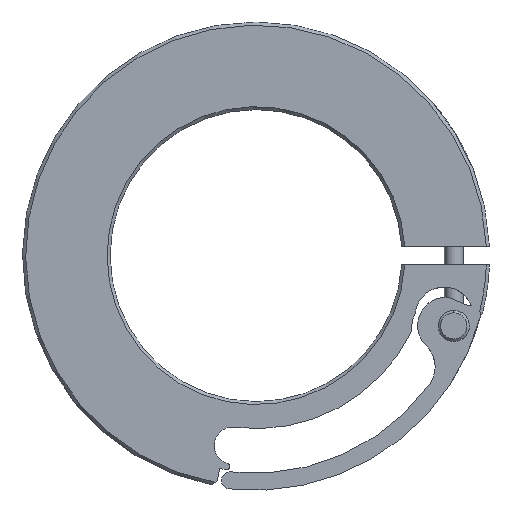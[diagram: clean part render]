
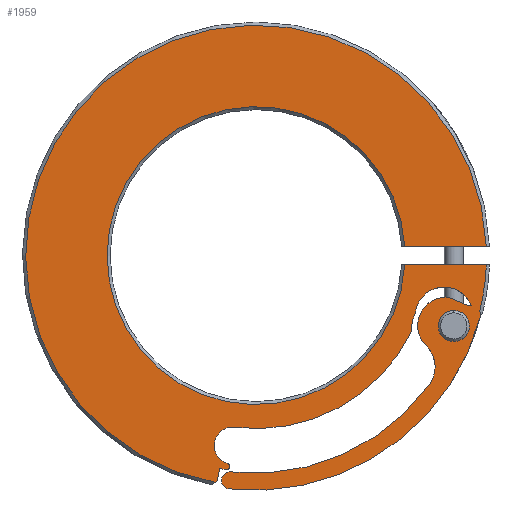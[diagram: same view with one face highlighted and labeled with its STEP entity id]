
A CAD part, front view. The second image highlights one B-rep face of the part: STEP entity #1959.
In plain terms, the highlighted planar face has unit normal (0, -1, 0).
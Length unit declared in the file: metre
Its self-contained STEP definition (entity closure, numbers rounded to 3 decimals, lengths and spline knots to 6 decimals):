
#330=CARTESIAN_POINT('',(-0.046163,0.005306,
0.029751));
#332=CARTESIAN_POINT('',(-0.052796,0.005306,
0.026042));
#333=DIRECTION('',(0.,-1.,0.));
#334=DIRECTION('',(0.049,0.,0.999));
#335=AXIS2_PLACEMENT_3D('',#332,#333,#334);
#337=CARTESIAN_POINT('',(-0.052796,0.005306,
0.026042));
#338=DIRECTION('',(0.,-1.,0.));
#339=DIRECTION('',(-0.049,0.,-0.999));
#340=AXIS2_PLACEMENT_3D('',#337,#338,#339);
#342=CARTESIAN_POINT('',(-0.048449,0.005306,
0.0288));
#343=DIRECTION('',(0.,1.,0.));
#344=DIRECTION('',(-0.187,0.,0.982));
#345=AXIS2_PLACEMENT_3D('',#342,#343,#344);
#347=CARTESIAN_POINT('',(-0.056673,0.005306,
0.024663));
#348=DIRECTION('',(0.,-1.,0.));
#349=DIRECTION('',(0.785,0.,0.62));
#350=AXIS2_PLACEMENT_3D('',#347,#348,#349);
#352=CARTESIAN_POINT('',(-0.055282,0.005306,
0.028534));
#353=DIRECTION('',(0.,-1.,0.));
#354=DIRECTION('',(0.927,0.,0.375));
#355=AXIS2_PLACEMENT_3D('',#352,#353,#354);
#357=CARTESIAN_POINT('',(-0.05426,0.005306,
0.025171));
#358=DIRECTION('',(0.,-1.,0.));
#359=DIRECTION('',(-0.901,0.,0.435));
#360=AXIS2_PLACEMENT_3D('',#357,#358,#359);
#362=CARTESIAN_POINT('',(-0.103583,0.005306,
0.044104));
#363=DIRECTION('',(0.,1.,0.));
#364=DIRECTION('',(0.899,0.,-0.439));
#365=AXIS2_PLACEMENT_3D('',#362,#363,#364);
#367=CARTESIAN_POINT('',(-0.109579,0.005306,
-0.004729));
#368=DIRECTION('',(0.,-1.,0.));
#369=DIRECTION('',(0.053,0.,0.999));
#370=AXIS2_PLACEMENT_3D('',#367,#368,#369);
#372=CARTESIAN_POINT('',(-0.111195,0.005306,
-0.010058));
#373=DIRECTION('',(0.,1.,0.));
#374=DIRECTION('',(0.29,0.,0.957));
#375=AXIS2_PLACEMENT_3D('',#372,#373,#374);
#377=CARTESIAN_POINT('',(-0.103583,0.005306,
0.044104));
#378=DIRECTION('',(0.,1.,0.));
#379=DIRECTION('',(-0.138,0.,-0.99));
#380=AXIS2_PLACEMENT_3D('',#377,#378,#379);
#382=DIRECTION('',(-0.199,0.,-0.98));
#383=VECTOR('',#382,0.003233);
#384=CARTESIAN_POINT('',(-0.112916,0.005306,
-0.010605));
#385=LINE('',#384,#383);
#386=DIRECTION('',(-0.834,0.,-0.552));
#387=VECTOR('',#386,0.000663);
#388=CARTESIAN_POINT('',(-0.11356,0.005306,
-0.013773));
#389=LINE('',#388,#387);
#390=CARTESIAN_POINT('',(-0.103583,0.005306,
0.044104));
#391=DIRECTION('',(0.,1.,0.));
#392=DIRECTION('',(-0.178,0.,-0.984));
#393=AXIS2_PLACEMENT_3D('',#390,#391,#392);
#395=DIRECTION('',(-1.,0.,0.));
#396=VECTOR('',#395,0.020949);
#397=CARTESIAN_POINT('',(-0.044446,0.005306,
0.046485));
#398=LINE('',#397,#396);
#399=CARTESIAN_POINT('',(-0.103583,0.005306,
0.044104));
#400=DIRECTION('',(0.,-1.,0.));
#401=DIRECTION('',(0.998,0.,0.062));
#402=AXIS2_PLACEMENT_3D('',#399,#400,#401);
#404=CARTESIAN_POINT('',(-0.103583,0.005306,
0.044104));
#405=DIRECTION('',(0.,1.,0.));
#406=DIRECTION('',(0.999,0.,-0.04));
#407=AXIS2_PLACEMENT_3D('',#404,#405,#406);
#409=CARTESIAN_POINT('',(-0.048449,0.005306,
0.0288));
#410=DIRECTION('',(0.,1.,0.));
#411=DIRECTION('',(0.923,0.,0.384));
#412=AXIS2_PLACEMENT_3D('',#409,#410,#411);
#414=CARTESIAN_POINT('',(-0.103976,0.005306,
0.043825));
#415=DIRECTION('',(0.,1.,0.));
#416=DIRECTION('',(0.965,0.,-0.261));
#417=AXIS2_PLACEMENT_3D('',#414,#415,#416);
#419=CARTESIAN_POINT('',(-0.110313,0.005306,
-0.013642));
#420=DIRECTION('',(0.,1.,0.));
#421=DIRECTION('',(-0.049,0.,-0.999));
#422=AXIS2_PLACEMENT_3D('',#419,#420,#421);
#424=CARTESIAN_POINT('',(-0.103976,0.005306,
0.043825));
#425=DIRECTION('',(0.,-1.,0.));
#426=DIRECTION('',(-0.11,0.,-0.994));
#427=AXIS2_PLACEMENT_3D('',#424,#425,#426);
#429=CARTESIAN_POINT('',(-0.065213,0.005306,
0.015504));
#430=DIRECTION('',(0.,-1.,0.));
#431=DIRECTION('',(0.807,0.,-0.59));
#432=AXIS2_PLACEMENT_3D('',#429,#430,#431);
#434=CARTESIAN_POINT('',(-0.054839,0.005306,
0.026142));
#435=DIRECTION('',(0.,1.,0.));
#436=DIRECTION('',(-0.698,0.,-0.716));
#437=AXIS2_PLACEMENT_3D('',#434,#435,#436);
#439=DIRECTION('',(0.922,0.,-0.387));
#440=VECTOR('',#439,0.005374);
#441=CARTESIAN_POINT('',(-0.053866,0.005306,
0.033315));
#442=LINE('',#441,#440);
#769=CARTESIAN_POINT('',(-0.044447,0.005306,
0.041723));
#771=DIRECTION('',(-1.,0.,0.));
#772=VECTOR('',#771,0.020948);
#773=CARTESIAN_POINT('',(-0.044447,0.005306,
0.041723));
#774=LINE('',#773,#772);
#910=CARTESIAN_POINT('',(-0.065395,0.005306,
0.046485));
#944=CARTESIAN_POINT('',(-0.114113,0.005306,
-0.014139));
#1381=CARTESIAN_POINT('',(-0.053866,0.005306,
0.033315));
#1382=VERTEX_POINT('',#1381);
#1383=CARTESIAN_POINT('',(-0.059893,0.005306,
0.020959));
#1384=VERTEX_POINT('',#1383);
#1393=CARTESIAN_POINT('',(-0.052601,0.005306,
0.030037));
#1394=CARTESIAN_POINT('',(-0.05299,0.005306,
0.022047));
#1395=VERTEX_POINT('',#1393);
#1396=VERTEX_POINT('',#1394);
#1397=CARTESIAN_POINT('',(-0.048911,0.005306,
0.031233));
#1398=VERTEX_POINT('',#1397);
#1399=CARTESIAN_POINT('',(-0.059061,0.005306,
0.011009));
#1400=VERTEX_POINT('',#1399);
#1405=CARTESIAN_POINT('',(-0.046059,0.005306,
0.028153));
#1406=CARTESIAN_POINT('',(-0.110419,0.005306,
-0.015828));
#1407=VERTEX_POINT('',#1405);
#1408=VERTEX_POINT('',#1406);
#1437=CARTESIAN_POINT('',(-0.110073,0.005306,
-0.011466));
#1438=VERTEX_POINT('',#1437);
#1455=VERTEX_POINT('',#910);
#1456=CARTESIAN_POINT('',(-0.044446,0.005306,
0.046485));
#1457=VERTEX_POINT('',#1456);
#1493=VERTEX_POINT('',#944);
#1494=CARTESIAN_POINT('',(-0.11356,0.005306,
-0.013773));
#1495=VERTEX_POINT('',#1494);
#1496=CARTESIAN_POINT('',(-0.062724,0.005306,
0.029255));
#1497=CARTESIAN_POINT('',(-0.063641,0.005306,
0.0246));
#1498=VERTEX_POINT('',#1496);
#1499=VERTEX_POINT('',#1497);
#1500=CARTESIAN_POINT('',(-0.109328,0.005306,
0.000027));
#1501=CARTESIAN_POINT('',(-0.110961,0.005306,
-0.009287));
#1502=VERTEX_POINT('',#1500);
#1503=VERTEX_POINT('',#1501);
#1504=CARTESIAN_POINT('',(-0.111247,0.005306,
-0.010863));
#1505=CARTESIAN_POINT('',(-0.112916,0.005306,
-0.010605));
#1506=VERTEX_POINT('',#1504);
#1507=VERTEX_POINT('',#1505);
#1509=CARTESIAN_POINT('',(-0.048351,0.005306,
0.031338));
#1511=VERTEX_POINT('',#1509);
#1527=VERTEX_POINT('',#769);
#1528=CARTESIAN_POINT('',(-0.065395,0.005306,
0.041723));
#1529=VERTEX_POINT('',#1528);
#1597=CARTESIAN_POINT('',(-0.048299,0.005306,
0.031272));
#1598=VERTEX_POINT('',#1597);
#1601=VERTEX_POINT('',#330);
#1905=CARTESIAN_POINT('',(-0.079189,0.005306,
0.008545));
#1906=DIRECTION('',(0.,1.,0.));
#1907=DIRECTION('',(-0.049,0.,-0.999));
#1908=AXIS2_PLACEMENT_3D('',#1905,#1906,#1907);
#1909=PLANE('',#1908);
#1910=ORIENTED_EDGE('',*,*,#1880,.T.);
#1911=ORIENTED_EDGE('',*,*,#1812,.T.);
#1913=ORIENTED_EDGE('',*,*,#1912,.T.);
#1915=ORIENTED_EDGE('',*,*,#1914,.T.);
#1917=ORIENTED_EDGE('',*,*,#1916,.T.);
#1919=ORIENTED_EDGE('',*,*,#1918,.T.);
#1921=ORIENTED_EDGE('',*,*,#1920,.T.);
#1923=ORIENTED_EDGE('',*,*,#1922,.T.);
#1925=ORIENTED_EDGE('',*,*,#1924,.T.);
#1927=ORIENTED_EDGE('',*,*,#1926,.T.);
#1929=ORIENTED_EDGE('',*,*,#1928,.T.);
#1931=ORIENTED_EDGE('',*,*,#1930,.T.);
#1933=ORIENTED_EDGE('',*,*,#1932,.T.);
#1935=ORIENTED_EDGE('',*,*,#1934,.F.);
#1937=ORIENTED_EDGE('',*,*,#1936,.T.);
#1938=ORIENTED_EDGE('',*,*,#1898,.T.);
#1940=ORIENTED_EDGE('',*,*,#1939,.T.);
#1942=ORIENTED_EDGE('',*,*,#1941,.T.);
#1944=ORIENTED_EDGE('',*,*,#1943,.T.);
#1946=ORIENTED_EDGE('',*,*,#1945,.T.);
#1948=ORIENTED_EDGE('',*,*,#1947,.T.);
#1950=ORIENTED_EDGE('',*,*,#1949,.T.);
#1951=EDGE_LOOP('',(#1910,#1911,#1913,#1915,#1917,#1919,#1921,#1923,#1925,#1927,
#1929,#1931,#1933,#1935,#1937,#1938,#1940,#1942,#1944,#1946,#1948,#1950));
#1952=FACE_OUTER_BOUND('',#1951,.F.);
#1954=ORIENTED_EDGE('',*,*,#1953,.T.);
#1956=ORIENTED_EDGE('',*,*,#1955,.T.);
#1957=EDGE_LOOP('',(#1954,#1956));
#1958=FACE_BOUND('',#1957,.F.);
#336=CIRCLE('',#335,0.004);
#341=CIRCLE('',#340,0.004);
#346=CIRCLE('',#345,0.002476);
#351=CIRCLE('',#350,0.010668);
#356=CIRCLE('',#355,0.007477);
#361=CIRCLE('',#360,0.009398);
#366=CIRCLE('',#365,0.04445);
#371=CIRCLE('',#370,0.004763);
#376=CIRCLE('',#375,0.000807);
#381=CIRCLE('',#380,0.055499);
#394=CIRCLE('',#393,0.059187);
#403=CIRCLE('',#402,0.038262);
#408=CIRCLE('',#407,0.059187);
#413=CIRCLE('',#412,0.002476);
#418=CIRCLE('',#417,0.06);
#423=CIRCLE('',#422,0.002189);
#428=CIRCLE('',#427,0.055626);
#433=CIRCLE('',#432,0.00762);
#438=CIRCLE('',#437,0.007239);
#1812=EDGE_CURVE('',#1598,#1511,#351,.T.);
#1880=EDGE_CURVE('',#1398,#1598,#346,.T.);
#1898=EDGE_CURVE('',#1601,#1407,#413,.T.);
#1912=EDGE_CURVE('',#1511,#1498,#356,.T.);
#1914=EDGE_CURVE('',#1498,#1499,#361,.T.);
#1916=EDGE_CURVE('',#1499,#1502,#366,.T.);
#1918=EDGE_CURVE('',#1502,#1503,#371,.T.);
#1920=EDGE_CURVE('',#1503,#1506,#376,.T.);
#1922=EDGE_CURVE('',#1506,#1507,#381,.T.);
#1924=EDGE_CURVE('',#1507,#1495,#385,.T.);
#1926=EDGE_CURVE('',#1495,#1493,#389,.T.);
#1928=EDGE_CURVE('',#1493,#1457,#394,.T.);
#1930=EDGE_CURVE('',#1457,#1455,#398,.T.);
#1932=EDGE_CURVE('',#1455,#1529,#403,.T.);
#1934=EDGE_CURVE('',#1527,#1529,#774,.T.);
#1936=EDGE_CURVE('',#1527,#1601,#408,.T.);
#1939=EDGE_CURVE('',#1407,#1408,#418,.T.);
#1941=EDGE_CURVE('',#1408,#1438,#423,.T.);
#1943=EDGE_CURVE('',#1438,#1400,#428,.T.);
#1945=EDGE_CURVE('',#1400,#1384,#433,.T.);
#1947=EDGE_CURVE('',#1384,#1382,#438,.T.);
#1949=EDGE_CURVE('',#1382,#1398,#442,.T.);
#1953=EDGE_CURVE('',#1395,#1396,#336,.T.);
#1955=EDGE_CURVE('',#1396,#1395,#341,.T.);
#1959=ADVANCED_FACE('',(#1952,#1958),#1909,.F.);
